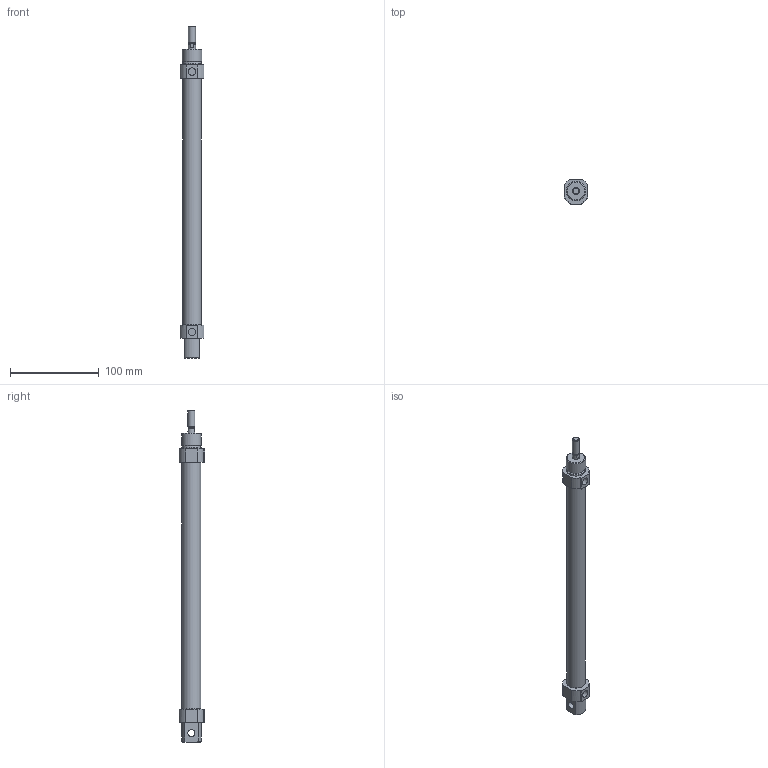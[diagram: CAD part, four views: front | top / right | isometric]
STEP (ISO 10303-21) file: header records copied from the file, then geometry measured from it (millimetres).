
FILE_DESCRIPTION((''),'2;1');
FILE_NAME('I:\3D電子目錄\氣缸\SDA\SDA20\SDA20\SDA20x250.stp','2007-08-06T10:31:31',('Administrator'),(''),'Autodesk Inventor 2008','Autodesk Inventor 2008','');
FILE_SCHEMA(('AUTOMOTIVE_DESIGN { 1 0 10303 214 1 1 1 1 }'));
Length unit declared in the file: millimetre
Products named in the file (1): SDA20X250
Bounding box: 27 x 28.5 x 375 mm (x, y, z)
Volume: 131709.9 mm3; surface area: 27702.6 mm2
Topology: 1 solids, 1 shells, 60 faces, 142 edges, 92 vertices
Faces by surface type: plane 30, cylinder 19, cone 8, bspline 2, torus 1
Full cylindrical faces by diameter (mm): 6.6 x1, 8 x3, 8.5 x2, 21.2 x1, 22 x2
Entity records: 1678 total; most frequent: CARTESIAN_POINT 301, DIRECTION 290, ORIENTED_EDGE 254, EDGE_CURVE 127, AXIS2_PLACEMENT_3D 112, VERTEX_POINT 91, EDGE_LOOP 84, VECTOR 66
